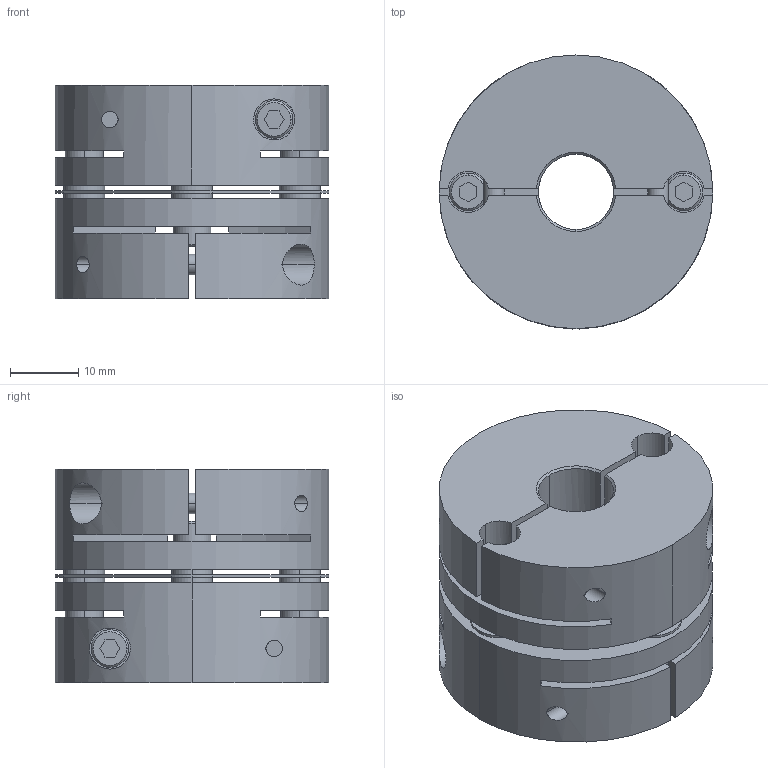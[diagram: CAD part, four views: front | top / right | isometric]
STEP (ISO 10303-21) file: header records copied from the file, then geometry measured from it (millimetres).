
FILE_DESCRIPTION((''),'2;1');
FILE_NAME('LAS-40C-11×14.stp','2011-08-11T08:49:48',(''),(''),'AutoCAD STEP 2000i','AutoCAD 2000i',', , ');
FILE_SCHEMA(('CONFIG_CONTROL_DESIGN'));
Length unit declared in the file: millimetre
Products named in the file (5): LAS-40C-10×10; 忣兜1; LA-4002-D10-1; LA-4002-D10; LAS40-ITA
Assembly tree (4 placements, depth 2):
  LAS-40C-10×10
    忣兜1
    LA-4002-D10-1
    LA-4002-D10
    LAS40-ITA
Bounding box: 40 x 40 x 31.2 mm (x, y, z)
Volume: 30383 mm3; surface area: 15399.3 mm2
Topology: 1 solids, 1 shells, 236 faces, 624 edges, 408 vertices
Faces by surface type: plane 112, cylinder 96, cone 28
Entity records: 8107 total; most frequent: CARTESIAN_POINT 1913, DIRECTION 1302, ORIENTED_EDGE 1248, EDGE_CURVE 624, AXIS2_PLACEMENT_3D 477, VERTEX_POINT 408, VECTOR 348, LINE 348
